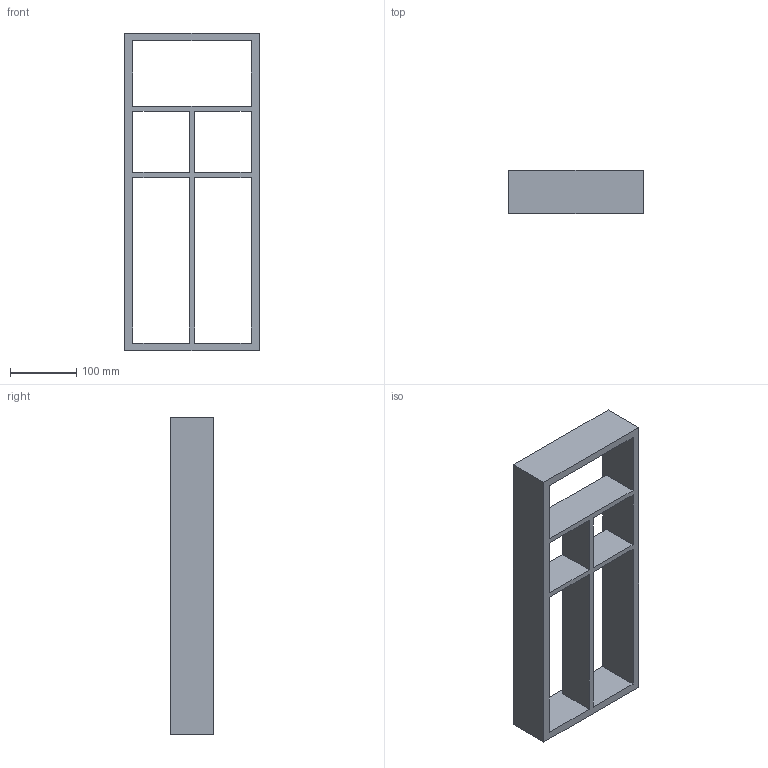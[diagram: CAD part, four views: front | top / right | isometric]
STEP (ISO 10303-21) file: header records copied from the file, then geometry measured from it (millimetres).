
FILE_DESCRIPTION (( 'STEP AP214' ), '1' );
FILE_NAME ('Vario Besteck NL500_B300_19 mm_Buche.step', '2010-11-04T08:33:24', ( 'grass' ), ( '' ), 'SwSTEP 2.0', 'SolidWorks 2010', '' );
FILE_SCHEMA (( 'AUTOMOTIVE_DESIGN' ));
Length unit declared in the file: millimetre
Products named in the file (1): Vario Besteck NL500_B300_19 mm_Buche
Bounding box: 202 x 65 x 479 mm (x, y, z)
Volume: 1342752 mm3; surface area: 289318 mm2
Topology: 1 solids, 1 shells, 22 faces, 72 edges, 48 vertices
Faces by surface type: plane 22
Entity records: 830 total; most frequent: ORIENTED_EDGE 144, CARTESIAN_POINT 143, DIRECTION 118, EDGE_CURVE 72, LINE 72, VECTOR 72, VERTEX_POINT 48, EDGE_LOOP 28
